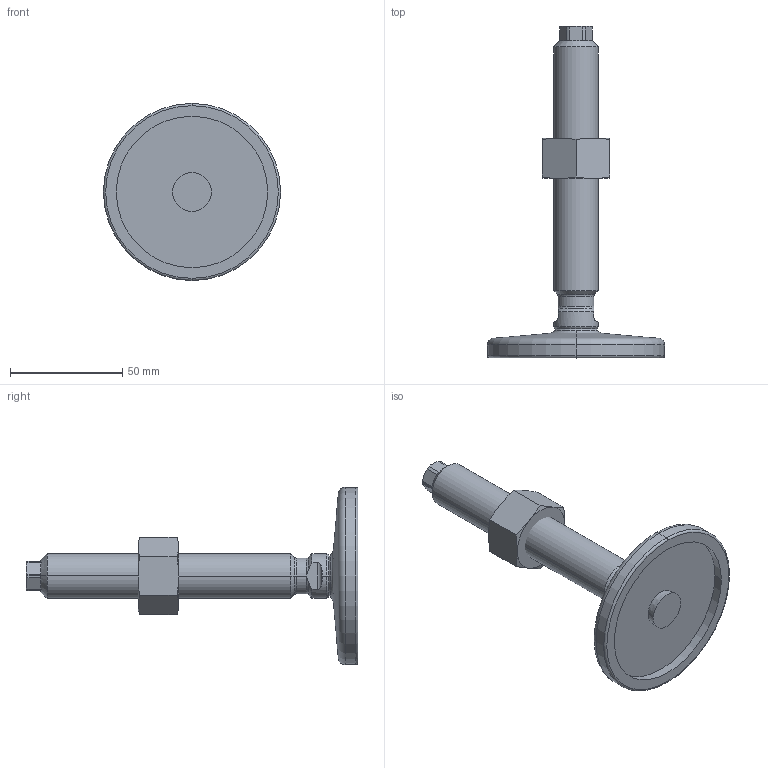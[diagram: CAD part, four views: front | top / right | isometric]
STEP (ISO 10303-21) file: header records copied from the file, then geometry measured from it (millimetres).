
FILE_DESCRIPTION (( 'STEP AP214' ), '1' );
FILE_NAME ('21-80-M20-125-D0-VK.step', '2020-10-02T17:36:05', ( '' ), ( '' ), 'SwSTEP 2.0', 'SolidWorks 2019', '' );
FILE_SCHEMA (( 'AUTOMOTIVE_DESIGN' ));
Length unit declared in the file: millimetre
Products named in the file (4): WB21_Spindel_V^WB21_V_M20-125; 21-80-M20-125-D0-VK; WB21_Fußteller 21^WB21_V_D0-080-R12-B9 (M20); WB4032^WB21_V_M20
Assembly tree (3 placements, depth 2):
  21-80-M20-125-D0-VK
    WB21_Fußteller 21^WB21_V_D0-080-R12-B9 (M20)
    WB21_Spindel_V^WB21_V_M20-125
    WB4032^WB21_V_M20
Bounding box: 79 x 148.02 x 79 mm (x, y, z)
Volume: 81578.5 mm3; surface area: 26011.8 mm2
Topology: 3 solids, 3 shells, 101 faces, 225 edges, 133 vertices
Faces by surface type: cone 33, plane 29, cylinder 25, torus 10, sphere 4
Entity records: 3164 total; most frequent: CARTESIAN_POINT 737, DIRECTION 492, ORIENTED_EDGE 450, EDGE_CURVE 225, AXIS2_PLACEMENT_3D 212, VERTEX_POINT 133, EDGE_LOOP 106, CIRCLE 105
